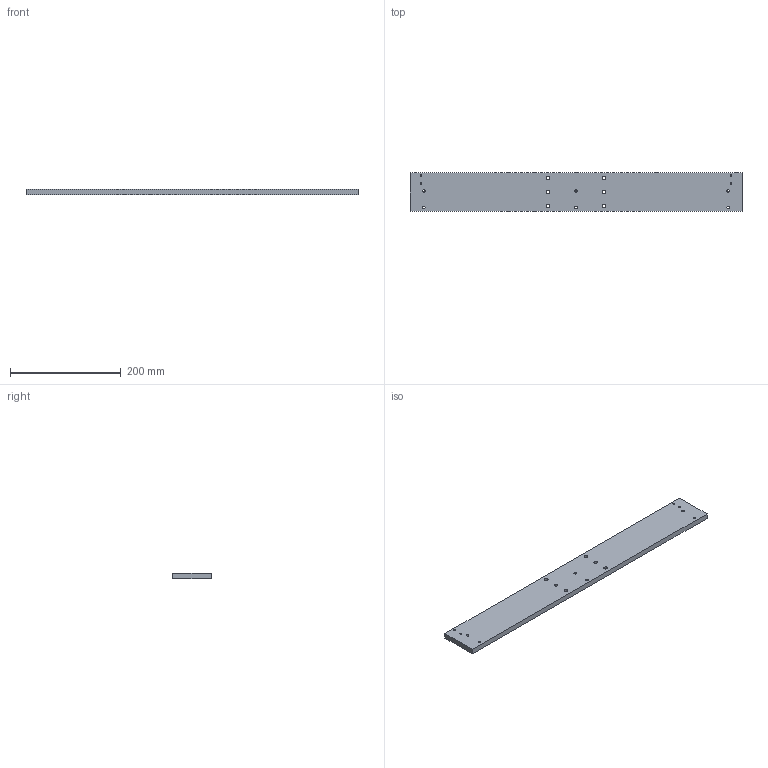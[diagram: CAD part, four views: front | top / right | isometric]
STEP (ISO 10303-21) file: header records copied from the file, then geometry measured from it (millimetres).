
FILE_DESCRIPTION (( 'STEP AP214' ), '1' );
FILE_NAME ('③_WS10ｽﾗｲﾀﾞｰﾌﾟﾚｰﾄ.STEP', '2024-05-01T07:18:23', ( '' ), ( '' ), 'SwSTEP 2.0', 'SolidWorks 2023', '' );
FILE_SCHEMA (( 'AUTOMOTIVE_DESIGN' ));
Length unit declared in the file: millimetre
Products named in the file (1): ③_WS10ｽﾗｲﾀﾞｰﾌﾟﾚｰﾄ
Bounding box: 600 x 70 x 10 mm (x, y, z)
Volume: 414783 mm3; surface area: 100463.3 mm2
Topology: 1 solids, 1 shells, 79 faces, 203 edges, 127 vertices
Faces by surface type: cylinder 55, plane 14, cone 10
Entity records: 2464 total; most frequent: DIRECTION 463, CARTESIAN_POINT 400, ORIENTED_EDGE 386, EDGE_CURVE 193, AXIS2_PLACEMENT_3D 190, VERTEX_POINT 127, EDGE_LOOP 122, CIRCLE 110
